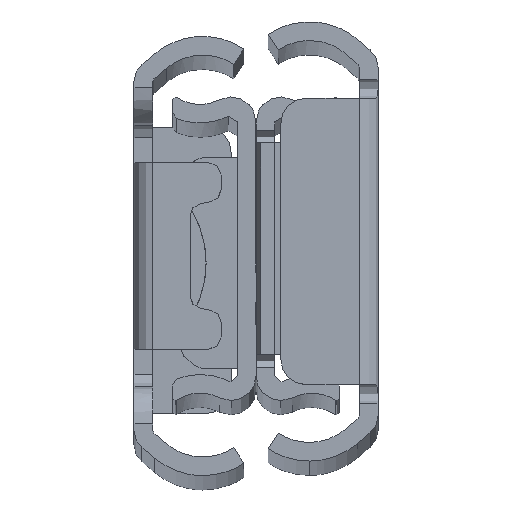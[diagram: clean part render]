
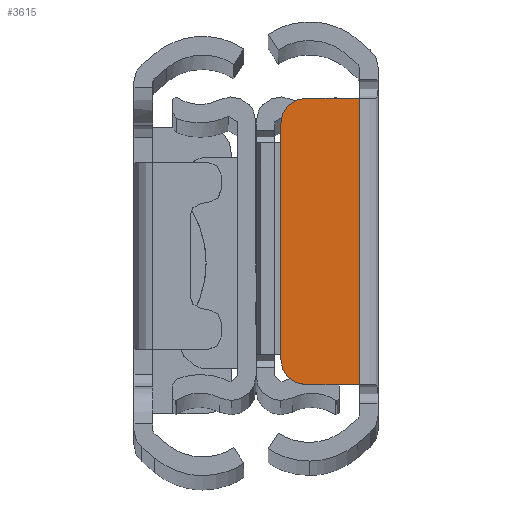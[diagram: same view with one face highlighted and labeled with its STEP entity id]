
A CAD part, top view. The second image highlights one B-rep face of the part: STEP entity #3615.
In plain terms, the highlighted planar face has unit normal (0, 0, 1) as drawn and (0, 0, -1) by its records, which use the part's own axes.
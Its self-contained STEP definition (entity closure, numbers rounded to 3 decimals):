
#312 = CARTESIAN_POINT ( 'NONE',  ( 212.052, -10.507, -152.4 ) ) ;
#387 = CARTESIAN_POINT ( 'NONE',  ( 218.1, 11.5, -152.4 ) ) ;
#446 = CARTESIAN_POINT ( 'NONE',  ( 211.852, 10.023, -152.4 ) ) ;
#641 = ORIENTED_EDGE ( 'NONE', *, *, #3505, .F. ) ;
#761 = B_SPLINE_CURVE_WITH_KNOTS ( 'NONE', 3,
 ( #2421, #5458, #905, #2802, #4428, #1433, #2274, #446, #5313, #3932 ),
 .UNSPECIFIED., .F., .F.,
 ( 4, 2, 2, 2, 4 ),
 ( 0., 0.25, 0.5, 0.75, 1. ),
 .UNSPECIFIED. ) ;
#845 = ORIENTED_EDGE ( 'NONE', *, *, #4315, .F. ) ;
#887 = VERTEX_POINT ( 'NONE', #4984 ) ;
#889 = CARTESIAN_POINT ( 'NONE',  ( 212.201, -10.729, -152.4 ) ) ;
#905 = CARTESIAN_POINT ( 'NONE',  ( 213.277, 11.448, -152.4 ) ) ;
#1007 = CARTESIAN_POINT ( 'NONE',  ( 211.8, -9.5, -152.4 ) ) ;
#1017 = CARTESIAN_POINT ( 'NONE',  ( 216.667, 11.5, -152.4 ) ) ;
#1235 = VERTEX_POINT ( 'NONE', #3275 ) ;
#1296 = DIRECTION ( 'NONE',  ( 0., 0., 1. ) ) ;
#1326 = CARTESIAN_POINT ( 'NONE',  ( 213.8, -11.5, -152.4 ) ) ;
#1342 = B_SPLINE_CURVE_WITH_KNOTS ( 'NONE', 3,
 ( #3262, #2716, #4793, #5833 ),
 .UNSPECIFIED., .F., .F.,
 ( 4, 4 ),
 ( 0., 1. ),
 .UNSPECIFIED. ) ;
#1373 = CARTESIAN_POINT ( 'NONE',  ( 213.8, 11.5, -152.4 ) ) ;
#1433 = CARTESIAN_POINT ( 'NONE',  ( 212.201, 10.729, -152.4 ) ) ;
#1554 = B_SPLINE_CURVE_WITH_KNOTS ( 'NONE', 3,
 ( #387, #1017, #3019, #1373 ),
 .UNSPECIFIED., .F., .F.,
 ( 4, 4 ),
 ( 0., 1. ),
 .UNSPECIFIED. ) ;
#1576 = B_SPLINE_CURVE_WITH_KNOTS ( 'NONE', 3,
 ( #3855, #3266, #3292, #312, #889, #5349, #5903, #3765, #4826, #1326 ),
 .UNSPECIFIED., .F., .F.,
 ( 4, 2, 2, 2, 4 ),
 ( 0., 0.25, 0.5, 0.75, 1. ),
 .UNSPECIFIED. ) ;
#1688 = B_SPLINE_CURVE_WITH_KNOTS ( 'NONE', 3,
 ( #5657, #2724, #3175, #4738 ),
 .UNSPECIFIED., .F., .F.,
 ( 4, 4 ),
 ( 0., 1. ),
 .UNSPECIFIED. ) ;
#1765 = CARTESIAN_POINT ( 'NONE',  ( 218.1, -11.5, -152.4 ) ) ;
#1803 = ORIENTED_EDGE ( 'NONE', *, *, #2753, .F. ) ;
#1850 = DIRECTION ( 'NONE',  ( 0., -1., 0. ) ) ;
#1943 = EDGE_CURVE ( 'NONE', #5294, #1235, #2777, .T. ) ;
#1955 = EDGE_CURVE ( 'NONE', #2050, #5618, #1688, .T. ) ;
#2050 = VERTEX_POINT ( 'NONE', #1765 ) ;
#2223 = ORIENTED_EDGE ( 'NONE', *, *, #5361, .F. ) ;
#2274 = CARTESIAN_POINT ( 'NONE',  ( 212.052, 10.507, -152.4 ) ) ;
#2421 = CARTESIAN_POINT ( 'NONE',  ( 213.8, 11.5, -152.4 ) ) ;
#2716 = CARTESIAN_POINT ( 'NONE',  ( 215.233, -11.5, -152.4 ) ) ;
#2724 = CARTESIAN_POINT ( 'NONE',  ( 218.1, -3.833, -152.4 ) ) ;
#2753 = EDGE_CURVE ( 'NONE', #3734, #5294, #761, .T. ) ;
#2777 = B_SPLINE_CURVE_WITH_KNOTS ( 'NONE', 3,
 ( #5523, #3043, #5069, #1007 ),
 .UNSPECIFIED., .F., .F.,
 ( 4, 4 ),
 ( 0., 1. ),
 .UNSPECIFIED. ) ;
#2784 = CARTESIAN_POINT ( 'NONE',  ( 214.4, 13.74, -152.4 ) ) ;
#2802 = CARTESIAN_POINT ( 'NONE',  ( 212.793, 11.248, -152.4 ) ) ;
#3019 = CARTESIAN_POINT ( 'NONE',  ( 215.233, 11.5, -152.4 ) ) ;
#3043 = CARTESIAN_POINT ( 'NONE',  ( 211.8, 3.167, -152.4 ) ) ;
#3175 = CARTESIAN_POINT ( 'NONE',  ( 218.1, 3.833, -152.4 ) ) ;
#3231 = CARTESIAN_POINT ( 'NONE',  ( 211.8, 9.5, -152.4 ) ) ;
#3262 = CARTESIAN_POINT ( 'NONE',  ( 213.8, -11.5, -152.4 ) ) ;
#3266 = CARTESIAN_POINT ( 'NONE',  ( 211.8, -9.762, -152.4 ) ) ;
#3275 = CARTESIAN_POINT ( 'NONE',  ( 211.8, -9.5, -152.4 ) ) ;
#3292 = CARTESIAN_POINT ( 'NONE',  ( 211.852, -10.023, -152.4 ) ) ;
#3505 = EDGE_CURVE ( 'NONE', #1235, #887, #1576, .T. ) ;
#3532 = AXIS2_PLACEMENT_3D ( 'NONE', #2784, #1296, #1850 ) ;
#3615 = ADVANCED_FACE ( 'NONE', ( #4351 ), #6307, .F. ) ;
#3700 = EDGE_LOOP ( 'NONE', ( #4360, #1803, #845, #5982, #2223, #641 ) ) ;
#3734 = VERTEX_POINT ( 'NONE', #6140 ) ;
#3765 = CARTESIAN_POINT ( 'NONE',  ( 213.277, -11.448, -152.4 ) ) ;
#3855 = CARTESIAN_POINT ( 'NONE',  ( 211.8, -9.5, -152.4 ) ) ;
#3932 = CARTESIAN_POINT ( 'NONE',  ( 211.8, 9.5, -152.4 ) ) ;
#4315 = EDGE_CURVE ( 'NONE', #5618, #3734, #1554, .T. ) ;
#4351 = FACE_OUTER_BOUND ( 'NONE', #3700, .T. ) ;
#4360 = ORIENTED_EDGE ( 'NONE', *, *, #1943, .F. ) ;
#4428 = CARTESIAN_POINT ( 'NONE',  ( 212.571, 11.099, -152.4 ) ) ;
#4738 = CARTESIAN_POINT ( 'NONE',  ( 218.1, 11.5, -152.4 ) ) ;
#4793 = CARTESIAN_POINT ( 'NONE',  ( 216.667, -11.5, -152.4 ) ) ;
#4826 = CARTESIAN_POINT ( 'NONE',  ( 213.538, -11.5, -152.4 ) ) ;
#4984 = CARTESIAN_POINT ( 'NONE',  ( 213.8, -11.5, -152.4 ) ) ;
#5069 = CARTESIAN_POINT ( 'NONE',  ( 211.8, -3.167, -152.4 ) ) ;
#5294 = VERTEX_POINT ( 'NONE', #3231 ) ;
#5313 = CARTESIAN_POINT ( 'NONE',  ( 211.8, 9.762, -152.4 ) ) ;
#5349 = CARTESIAN_POINT ( 'NONE',  ( 212.571, -11.099, -152.4 ) ) ;
#5361 = EDGE_CURVE ( 'NONE', #887, #2050, #1342, .T. ) ;
#5458 = CARTESIAN_POINT ( 'NONE',  ( 213.538, 11.5, -152.4 ) ) ;
#5523 = CARTESIAN_POINT ( 'NONE',  ( 211.8, 9.5, -152.4 ) ) ;
#5618 = VERTEX_POINT ( 'NONE', #5712 ) ;
#5657 = CARTESIAN_POINT ( 'NONE',  ( 218.1, -11.5, -152.4 ) ) ;
#5712 = CARTESIAN_POINT ( 'NONE',  ( 218.1, 11.5, -152.4 ) ) ;
#5833 = CARTESIAN_POINT ( 'NONE',  ( 218.1, -11.5, -152.4 ) ) ;
#5903 = CARTESIAN_POINT ( 'NONE',  ( 212.793, -11.248, -152.4 ) ) ;
#5982 = ORIENTED_EDGE ( 'NONE', *, *, #1955, .F. ) ;
#6140 = CARTESIAN_POINT ( 'NONE',  ( 213.8, 11.5, -152.4 ) ) ;
#6307 = PLANE ( 'NONE',  #3532 ) ;
